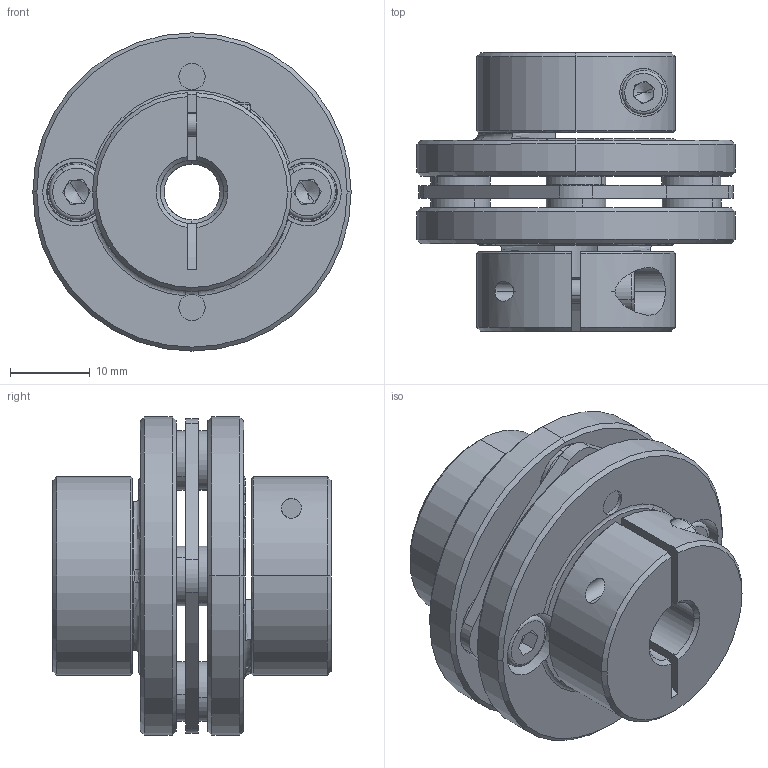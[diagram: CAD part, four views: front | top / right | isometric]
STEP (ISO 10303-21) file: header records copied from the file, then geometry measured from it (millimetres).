
FILE_DESCRIPTION (( 'STEP AP203' ), '1' );
FILE_NAME ('LE1-B-D40L35-7-8.STEP', '2021-11-01T02:07:19', ( '' ), ( '' ), 'SwSTEP 2.0', 'SolidWorks 2018', '' );
FILE_SCHEMA (( 'CONFIG_CONTROL_DESIGN' ));
Length unit declared in the file: millimetre
Products named in the file (1): LE1-B-D40L35-7-8
Bounding box: 40 x 35 x 40 mm (x, y, z)
Volume: 20590.6 mm3; surface area: 12804.5 mm2
Topology: 1 solids, 13 shells, 423 faces, 1021 edges, 630 vertices
Faces by surface type: cylinder 149, plane 140, cone 114, torus 18, bspline 2
Entity records: 12768 total; most frequent: CARTESIAN_POINT 2461, DIRECTION 2335, ORIENTED_EDGE 2018, EDGE_CURVE 1009, AXIS2_PLACEMENT_3D 952, VERTEX_POINT 630, CIRCLE 530, EDGE_LOOP 491
